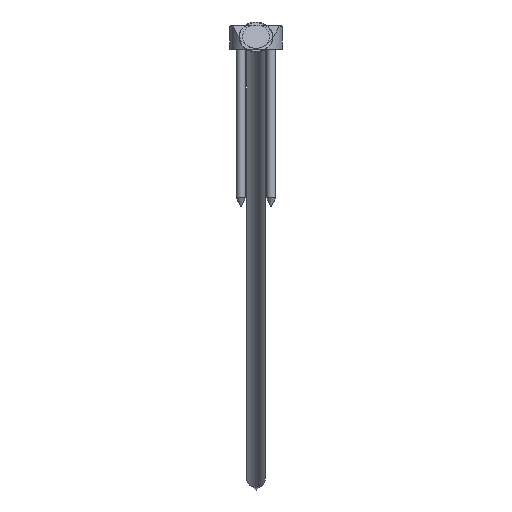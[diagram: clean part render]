
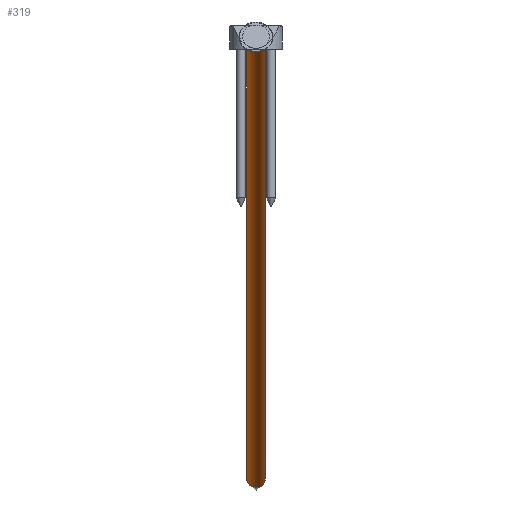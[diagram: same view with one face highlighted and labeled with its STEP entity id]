
A CAD part, front view. The second image highlights one B-rep face of the part: STEP entity #319.
In plain terms, the highlighted cylindrical face has radius 6 mm (diameter 12 mm), a full revolution.
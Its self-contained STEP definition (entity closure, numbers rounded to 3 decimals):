
#56=CYLINDRICAL_SURFACE('',#399,6.);
#119=ORIENTED_EDGE('',*,*,#151,.T.);
#120=ORIENTED_EDGE('',*,*,#150,.F.);
#150=EDGE_CURVE('',#176,#176,#198,.T.);
#151=EDGE_CURVE('',#177,#177,#199,.T.);
#176=VERTEX_POINT('',#600);
#177=VERTEX_POINT('',#603);
#198=CIRCLE('',#398,6.);
#199=CIRCLE('',#400,6.);
#241=EDGE_LOOP('',(#119));
#242=EDGE_LOOP('',(#120));
#286=FACE_BOUND('',#241,.T.);
#287=FACE_BOUND('',#242,.T.);
#319=ADVANCED_FACE('',(#286,#287),#56,.T.);
#398=AXIS2_PLACEMENT_3D('',#599,#499,#500);
#399=AXIS2_PLACEMENT_3D('',#601,#501,#502);
#400=AXIS2_PLACEMENT_3D('',#602,#503,#504);
#499=DIRECTION('',(0.,1.,0.));
#500=DIRECTION('',(0.,0.,1.));
#501=DIRECTION('',(0.,1.,0.));
#502=DIRECTION('',(0.,0.,1.));
#503=DIRECTION('',(0.,1.,0.));
#504=DIRECTION('',(0.,0.,1.));
#599=CARTESIAN_POINT('',(0.,47.75,0.));
#600=CARTESIAN_POINT('',(0.,47.75,6.));
#601=CARTESIAN_POINT('',(0.,54.,0.));
#602=CARTESIAN_POINT('',(0.,-533.,0.));
#603=CARTESIAN_POINT('',(0.,-533.,6.));
